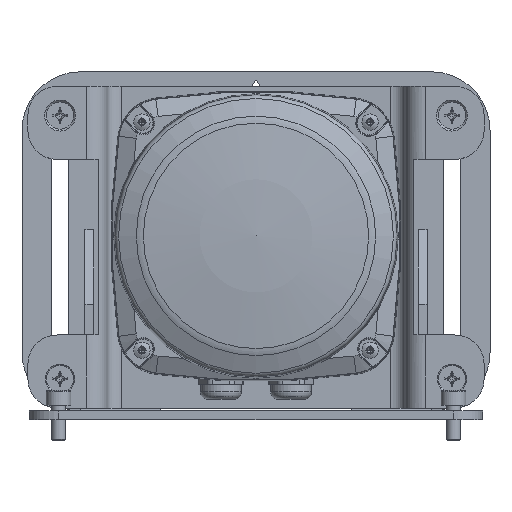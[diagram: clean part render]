
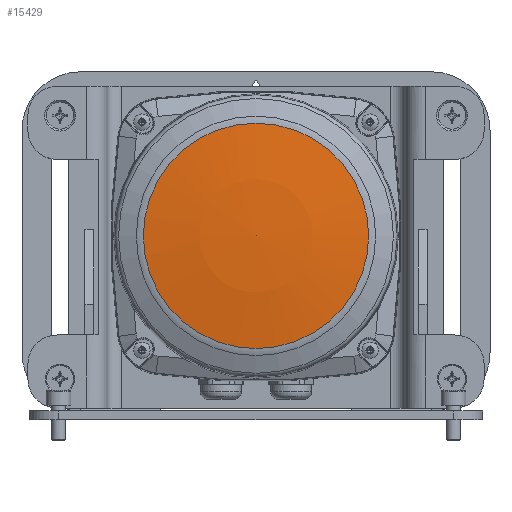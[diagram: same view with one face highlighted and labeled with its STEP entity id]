
A CAD part, top view. The second image highlights one B-rep face of the part: STEP entity #15429.
In plain terms, the highlighted spherical face has radius 288 mm.
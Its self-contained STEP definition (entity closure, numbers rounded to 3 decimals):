
#115=SPHERICAL_SURFACE('',#58010,288.);
#12737=FACE_OUTER_BOUND('',#21853,.T.);
#15429=ADVANCED_FACE('',(#12737),#115,.T.);
#18449=CIRCLE('',#58009,38.519);
#21853=EDGE_LOOP('',(#36209));
#36209=ORIENTED_EDGE('',*,*,#50597,.T.);
#45069=VERTEX_POINT('',#91726);
#50597=EDGE_CURVE('',#45069,#45069,#18449,.T.);
#58009=AXIS2_PLACEMENT_3D('',#91725,#65706,#65707);
#58010=AXIS2_PLACEMENT_3D('',#91727,#65708,#65709);
#65706=DIRECTION('',(0.,0.,1.));
#65707=DIRECTION('',(0.,-1.,0.));
#65708=DIRECTION('',(0.,0.,1.));
#65709=DIRECTION('',(0.,1.,0.));
#91725=CARTESIAN_POINT('',(0.,0.,81.982));
#91726=CARTESIAN_POINT('',(0.,-38.519,81.982));
#91727=CARTESIAN_POINT('',(0.,0.,-203.43));
